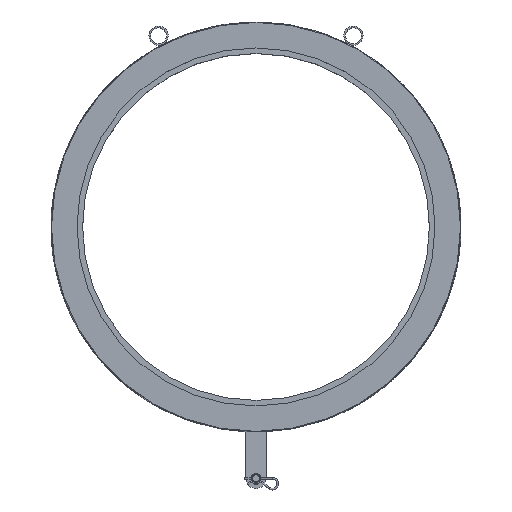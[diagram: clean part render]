
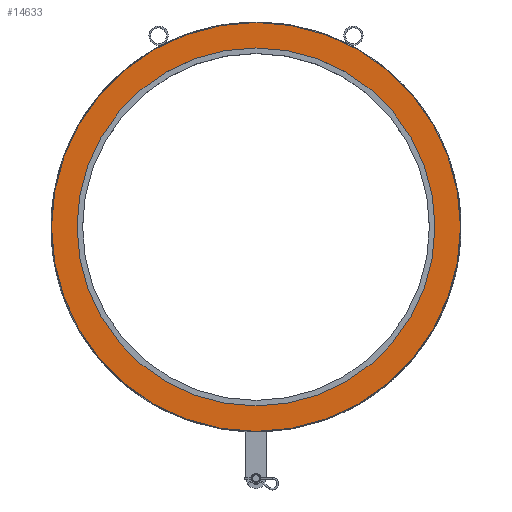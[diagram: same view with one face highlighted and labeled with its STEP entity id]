
A CAD part, top view. The second image highlights one B-rep face of the part: STEP entity #14633.
In plain terms, the highlighted planar face has unit normal (0, 0, 1).
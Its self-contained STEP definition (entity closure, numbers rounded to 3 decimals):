
#478=FACE_BOUND('',#3239,.T.);
#1558=PLANE('',#15459);
#2346=FACE_OUTER_BOUND('',#3238,.T.);
#3238=EDGE_LOOP('',(#13455));
#3239=EDGE_LOOP('',(#13456));
#5653=CIRCLE('',#15455,354.5);
#5654=CIRCLE('',#15457,405.);
#7089=VERTEX_POINT('',#34573);
#7090=VERTEX_POINT('',#34577);
#9223=EDGE_CURVE('',#7089,#7089,#5653,.T.);
#9225=EDGE_CURVE('',#7090,#7090,#5654,.T.);
#13455=ORIENTED_EDGE('',*,*,#9225,.F.);
#13456=ORIENTED_EDGE('',*,*,#9223,.T.);
#14633=ADVANCED_FACE('',(#2346,#478),#1558,.T.);
#15455=AXIS2_PLACEMENT_3D('',#34574,#18030,#18031);
#15457=AXIS2_PLACEMENT_3D('',#34578,#18035,#18036);
#15459=AXIS2_PLACEMENT_3D('',#34581,#18040,#18041);
#18030=DIRECTION('center_axis',(0.,0.,
-1.));
#18031=DIRECTION('ref_axis',(-1.,0.,0.));
#18035=DIRECTION('center_axis',(0.,0.,
-1.));
#18036=DIRECTION('ref_axis',(-1.,0.,0.));
#18040=DIRECTION('center_axis',(0.,0.,
1.));
#18041=DIRECTION('ref_axis',(-1.,0.,0.));
#34573=CARTESIAN_POINT('',(354.5,0.,132.));
#34574=CARTESIAN_POINT('Origin',(0.,0.,
132.));
#34577=CARTESIAN_POINT('',(405.,0.,132.));
#34578=CARTESIAN_POINT('Origin',(0.,0.,
132.));
#34581=CARTESIAN_POINT('Origin',(0.,0.,
132.));
